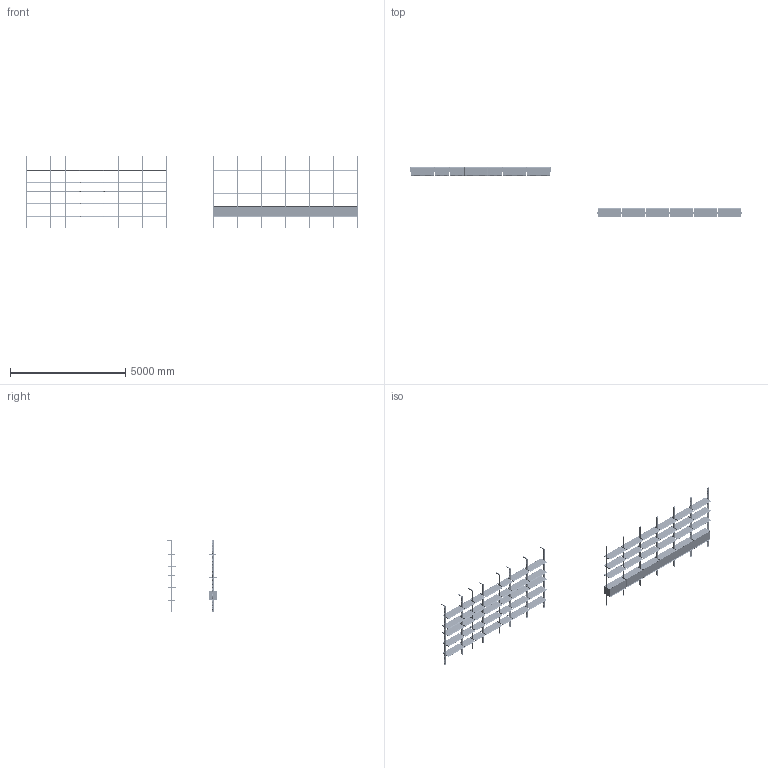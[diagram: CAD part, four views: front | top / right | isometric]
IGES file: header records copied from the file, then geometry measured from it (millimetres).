
Global section: file name: C:\Users\l.marzoli\Desktop\Moodbook23_materialiXrendering\FIAM_AMBIENTI_2023\3D-prodotti\moderno-morbido\REMIND-libreria\3D-REMIND-compo-mood-moderno.igs; native system: Rhinoceros ( Aug 11 2021 ); preprocessor: Trout Lake IGES 012 Aug 11 2021; date: 230711.090533; units: millimetre
Bounding box: 14380.37 x 2204.45 x 3150 mm (x, y, z)
Surface area: 96353878.9 mm2 (no closed solid volume)
Topology: 0 solids, 0 shells, 10192 faces, 77346 edges, 76442 vertices
Faces by surface type: bspline 10192
